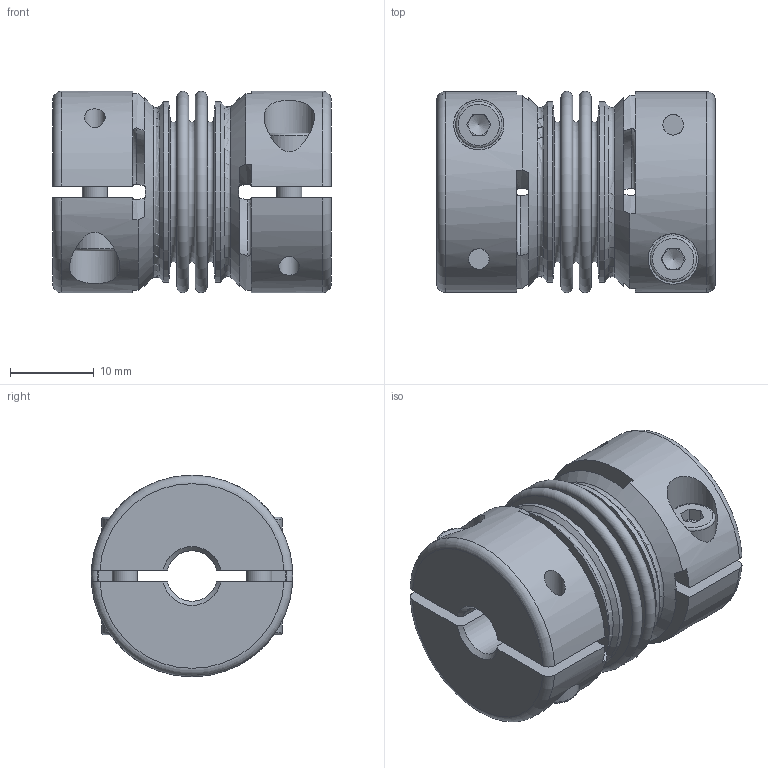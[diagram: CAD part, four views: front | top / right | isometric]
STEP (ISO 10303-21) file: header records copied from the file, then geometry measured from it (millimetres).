
FILE_DESCRIPTION(/* description */ ('Unknown','CAx-IF Rec.Pracs.---Representation and Presentation of Product Manufacturing Information (PMI)---4.0---2014-10-13','CAx-IF Rec.Pracs.---3D Tessellated Geometry---0.4---2014-09-14','2;1'),/* implementation_level */ '2;1');
FILE_NAME(/* name */ 'KG-HS 5 ',/* time_stamp */ '2022-11-25T11:27:54+01:00',/* author */ ('Unknown'),/* organization */ ('Unknown'),/* preprocessor_version */ 'ST-DEVELOPER v18.102',/* originating_system */ 'Solid Edge',/* authorisation */ 'Unknown');
FILE_SCHEMA (('AP242_MANAGED_MODEL_BASED_3D_ENGINEERING_MIM_LF { 1 0 10303 442 1 1 4 }'));
Length unit declared in the file: millimetre
Products named in the file (1): 04824560
Bounding box: 33.16 x 24 x 24 mm (x, y, z)
Volume: 8906.6 mm3; surface area: 8962.2 mm2
Topology: 1 solids, 1 shells, 196 faces, 475 edges, 305 vertices
Faces by surface type: plane 114, cylinder 40, torus 26, cone 16
Full cylindrical faces by diameter (mm): 2.459 x4, 3 x4, 3.4 x4, 5.5 x4, 6 x4, 20.9 x2, 21.5 x2
Entity records: 7144 total; most frequent: CARTESIAN_POINT 1446, DIRECTION 904, ORIENTED_EDGE 804, EDGE_CURVE 402, AXIS2_PLACEMENT_3D 372, VERTEX_POINT 290, FACE_BOUND 288, EDGE_LOOP 284
